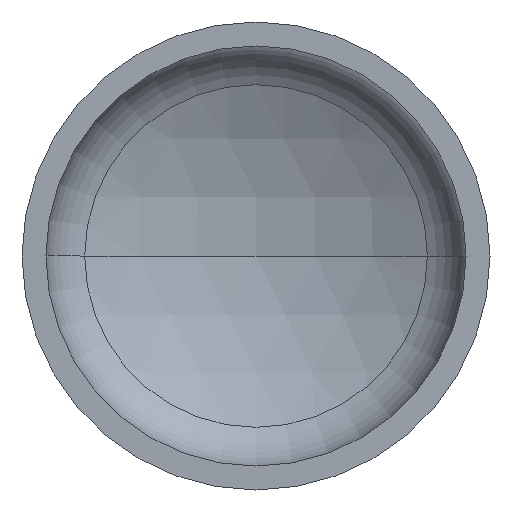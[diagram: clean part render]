
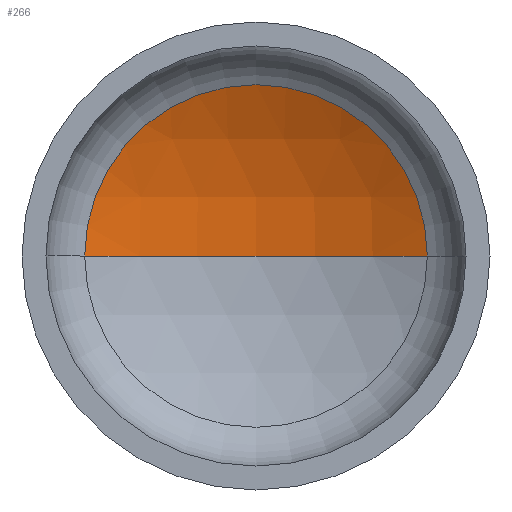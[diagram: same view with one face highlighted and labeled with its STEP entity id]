
A CAD part, front view. The second image highlights one B-rep face of the part: STEP entity #266.
In plain terms, the highlighted spherical face has radius 1440 mm.
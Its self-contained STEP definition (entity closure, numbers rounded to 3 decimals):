
#7 = EDGE_LOOP ( 'NONE', ( #115, #102, #54 ) ) ;
#28 = AXIS2_PLACEMENT_3D ( 'NONE', #380, #45, #241 ) ;
#30 = AXIS2_PLACEMENT_3D ( 'NONE', #331, #38, #237 ) ;
#38 = DIRECTION ( 'NONE',  ( 0., -1., 0. ) ) ;
#41 = VERTEX_POINT ( 'NONE', #293 ) ;
#45 = DIRECTION ( 'NONE',  ( 0., 0., -1. ) ) ;
#47 = CIRCLE ( 'NONE', #199, 1440. ) ;
#54 = ORIENTED_EDGE ( 'NONE', *, *, #353, .T. ) ;
#73 = AXIS2_PLACEMENT_3D ( 'NONE', #280, #264, #238 ) ;
#102 = ORIENTED_EDGE ( 'NONE', *, *, #358, .T. ) ;
#110 = VERTEX_POINT ( 'NONE', #254 ) ;
#115 = ORIENTED_EDGE ( 'NONE', *, *, #398, .F. ) ;
#160 = CARTESIAN_POINT ( 'NONE',  ( -658.815, 344.531, 0. ) ) ;
#168 = DIRECTION ( 'NONE',  ( 0., 0., 1. ) ) ;
#199 = AXIS2_PLACEMENT_3D ( 'NONE', #314, #168, #340 ) ;
#237 = DIRECTION ( 'NONE',  ( 1., 0., 0. ) ) ;
#238 = DIRECTION ( 'NONE',  ( -1., 0., 0. ) ) ;
#241 = DIRECTION ( 'NONE',  ( -1., 0., 0. ) ) ;
#254 = CARTESIAN_POINT ( 'NONE',  ( 0., 504.077, 0. ) ) ;
#264 = DIRECTION ( 'NONE',  ( 0., 0., -1. ) ) ;
#266 = ADVANCED_FACE ( 'NONE', ( #346 ), #402, .F. ) ;
#280 = CARTESIAN_POINT ( 'NONE',  ( 0., -935.923, 0. ) ) ;
#293 = CARTESIAN_POINT ( 'NONE',  ( 658.815, 344.531, 0. ) ) ;
#314 = CARTESIAN_POINT ( 'NONE',  ( 0., -935.923, 0. ) ) ;
#322 = CIRCLE ( 'NONE', #30, 658.815 ) ;
#331 = CARTESIAN_POINT ( 'NONE',  ( 0., 344.531, 0. ) ) ;
#340 = DIRECTION ( 'NONE',  ( 1., 0., 0. ) ) ;
#346 = FACE_OUTER_BOUND ( 'NONE', #7, .T. ) ;
#353 = EDGE_CURVE ( 'NONE', #41, #381, #322, .T. ) ;
#358 = EDGE_CURVE ( 'NONE', #110, #41, #379, .T. ) ;
#379 = CIRCLE ( 'NONE', #28, 1440. ) ;
#380 = CARTESIAN_POINT ( 'NONE',  ( 0., -935.923, 0. ) ) ;
#381 = VERTEX_POINT ( 'NONE', #160 ) ;
#398 = EDGE_CURVE ( 'NONE', #110, #381, #47, .T. ) ;
#402 = SPHERICAL_SURFACE ( 'NONE', #73, 1440. ) ;
